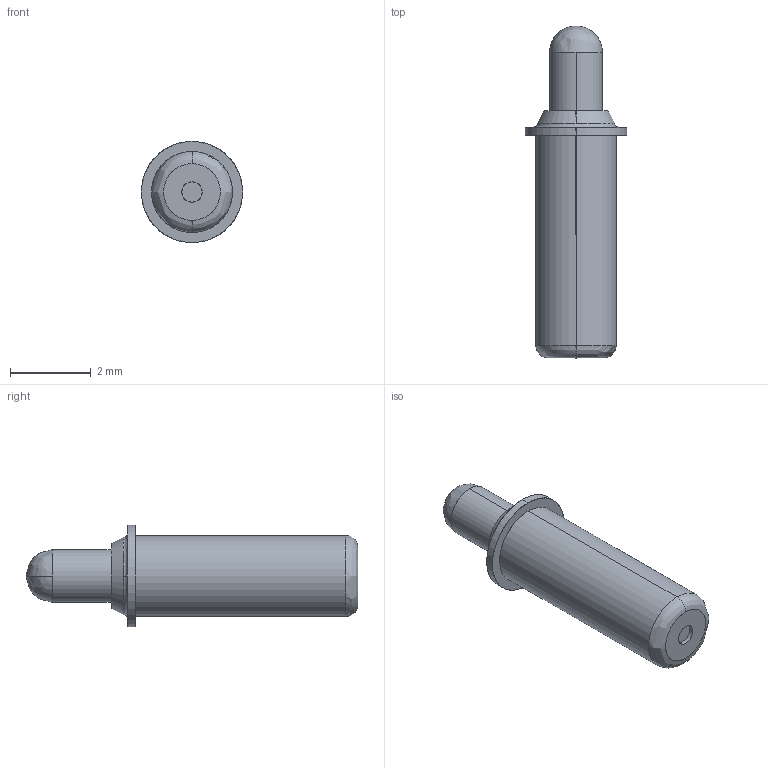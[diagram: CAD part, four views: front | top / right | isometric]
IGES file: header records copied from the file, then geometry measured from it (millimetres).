
Start section: SolidWorks IGES file using analytic representation for surfaces
Global section: file name: F:\OneDrive\Desktop\Coda\28.6\Front Fitment\Front Fitment\LPC3 series RTP\LPC3 Series RTP\LPC3J-8.IGS; native system: SolidWorks 2021; preprocessor: SolidWorks 2021; author: Georg; date: 210628.143503; units: millimetre
Bounding box: 2.5 x 8.2 x 2.5 mm (x, y, z)
Surface area: 53.9 mm2 (no closed solid volume)
Topology: 0 solids, 0 shells, 21 faces, 280 edges, 276 vertices
Faces by surface type: bspline 11, revolution 10
